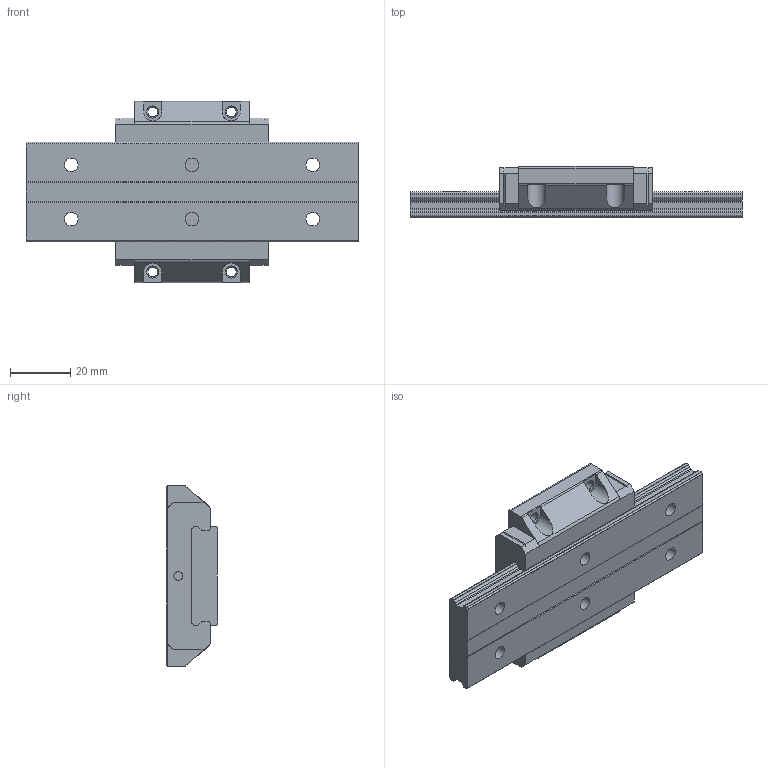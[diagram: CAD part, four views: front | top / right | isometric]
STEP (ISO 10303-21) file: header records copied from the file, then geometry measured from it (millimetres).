
FILE_DESCRIPTION(/* description */ ('STEP AP203'),/* implementation_level */ '2;1');
FILE_NAME(/* name */ 'SHW17CA1SSM-110LM_G15_0_Without_grease_nipple_29-5_0_0_01',/* time_stamp */ '2024-05-10T03:27:08+02:00',/* author */ ('License CC BY-ND 4.0'),/* organization */ ('CADENAS'),/* preprocessor_version */ 'ST-DEVELOPER v19.3',/* originating_system */ 'PARTsolutions',/* authorisation */ ' ');
FILE_SCHEMA (('CONFIG_CONTROL_DESIGN'));
Length unit declared in the file: millimetre
Products named in the file (4): SHW17CA1SSM-110LM_G15_0_Without_grease_nipple_29-5_0_0_01; SHW17CAM11015 Track; SHW17CAMSS1 Slide12-50; -SHW_grease_nipple_joint
Assembly tree (3 placements, depth 2):
  SHW17CA1SSM-110LM_G15_0_Without_grease_nipple_29-5_0_0_01
    SHW17CAM11015 Track
    SHW17CAMSS1 Slide12-50
    -SHW_grease_nipple_joint
Bounding box: 110 x 17 x 60 mm (x, y, z)
Volume: 54169.5 mm3; surface area: 20483.2 mm2
Topology: 2 solids, 2 shells, 186 faces, 506 edges, 333 vertices
Faces by surface type: plane 108, cylinder 66, cone 12
Full cylindrical faces by diameter (mm): 3 x2, 3.3 x6, 4.5 x6, 7.5 x6
Entity records: 5796 total; most frequent: DIRECTION 1006, CARTESIAN_POINT 981, ORIENTED_EDGE 932, EDGE_CURVE 466, AXIS2_PLACEMENT_3D 350, VERTEX_POINT 324, LINE 306, VECTOR 306
